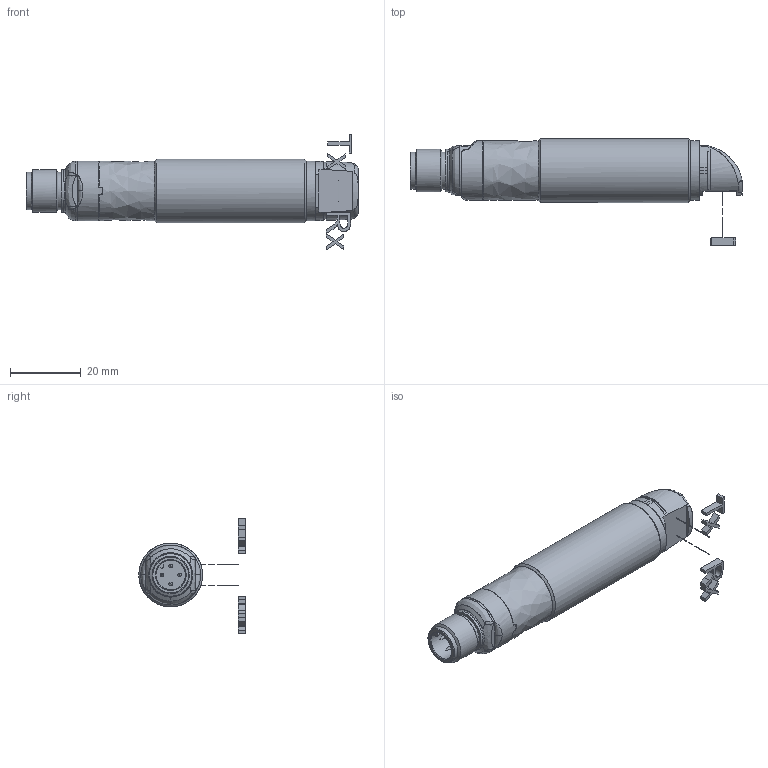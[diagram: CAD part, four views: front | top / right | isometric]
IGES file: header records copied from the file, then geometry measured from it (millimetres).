
Global section: file name: D:\TMP\DSD-0099.igs; preprocessor: I-DEAS 3D IGES Translator 11; date: 20060608.104156; units: millimetre
Bounding box: 93.6 x 30 x 32.67 mm (x, y, z)
Surface area: 10546.6 mm2
Topology: 8 solids, 8 shells, 252 faces, 1233 edges, 1130 vertices
Faces by surface type: bspline 252
